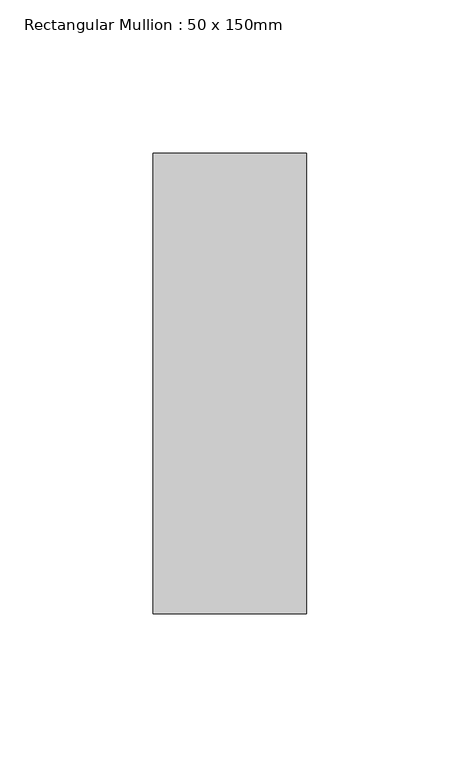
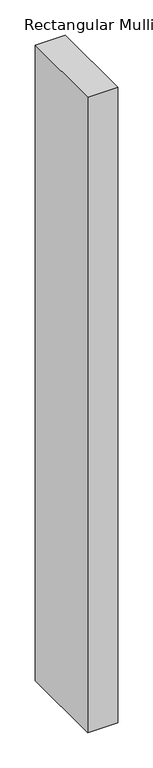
"""IFC4 building model written with IfcOpenShell, lengths in millimetres: member geometry, Rectangular Mullion : 50 x 150mm."""

from ifc_helpers import new_model, si_unit, frame, origin, place, context, project, spatial, polyline, outline, extrude, source, transform, mapped, element, save


def rectangular_mullion_50_x_150mm_e073311a(model_context):
    return source(origin(), model_context, "Body", "SweptSolid", [
        extrude(outline(polyline([(0.0, 75.0), (0.0, -75.0), (-50.0, -75.0), (-50.0, 75.0), (0.0, 75.0)])), frame((0.0, 0.0, -1107.5), z_axis=(0.0, 0.0, 1.0), x_axis=(1.0, 0.0, 0.0)), (0.0, 0.0, 1.0), 1107.5),
    ])


if __name__ == "__main__":
    model = new_model("IFC4")
    model_context = context("Model", 3, world=origin())
    ifc_project = project(units=[si_unit("LENGTHUNIT", "METRE", prefix="MILLI")], contexts=[model_context])
    site = spatial("IfcSite", under=ifc_project)
    building = spatial("IfcBuilding", under=site)
    placement = place(None, origin())
    rectangular_mullion_50_x_150mm_shape = rectangular_mullion_50_x_150mm_e073311a(model_context)
    element("IfcMember", 1, ObjectType="Rectangular Mullion : 50 x 150mm", at=placement, inside=building, context=model_context, shape_type="MappedRepresentation", body=[
        mapped(rectangular_mullion_50_x_150mm_shape, transform((0.0, 0.0, 0.0), x_axis=(1.0, 0.0, 0.0), y_axis=(0.0, 1.0, 0.0), z_axis=(0.0, 0.0, 1.0))),
    ])
    save(model, "model.ifc")
